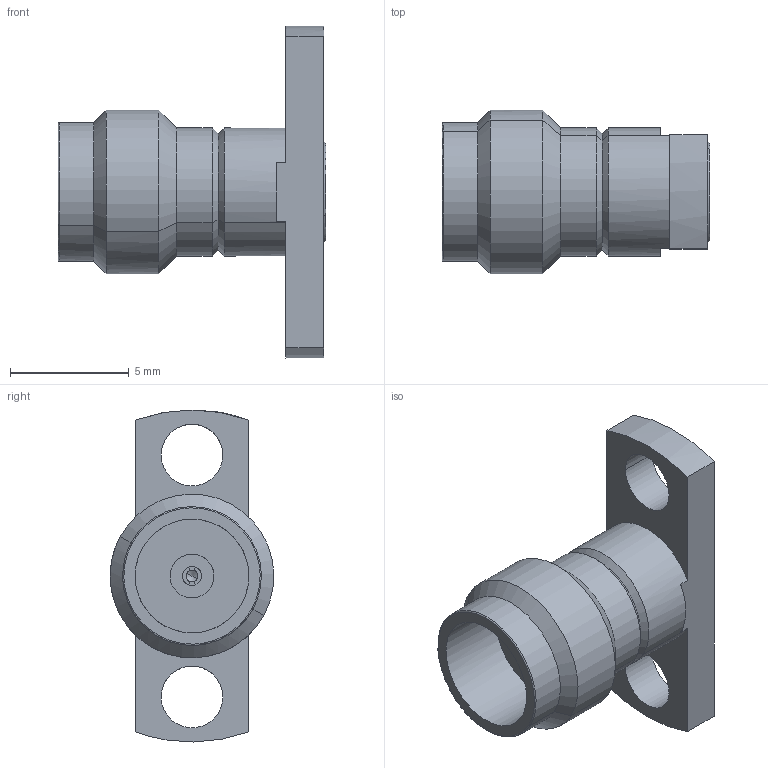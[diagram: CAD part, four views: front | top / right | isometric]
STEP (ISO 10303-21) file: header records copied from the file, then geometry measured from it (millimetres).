
FILE_DESCRIPTION(('CATIA V5 STEP Exchange'),'2;1');
FILE_NAME('C:\Documents and Settings\Administrator\桌面\98-02-9E5-003(REV.A).stp','2013-05-13T06:36:58+00:00',('none'),('none'),'CATIA Version 5 Release 17 (IN-10)','CATIA V5 STEP AP203','none');
FILE_SCHEMA(('CONFIG_CONTROL_DESIGN'));
Length unit declared in the file: millimetre
Products named in the file (1): 98-02-9E5-003(REV.A)
Bounding box: 11.3 x 6.9 x 14 mm (x, y, z)
Volume: 292.9 mm3; surface area: 479.9 mm2
Topology: 1 solids, 1 shells, 72 faces, 178 edges, 110 vertices
Faces by surface type: cylinder 28, plane 28, cone 14, torus 2
Entity records: 2463 total; most frequent: CARTESIAN_POINT 868, ORIENTED_EDGE 348, DIRECTION 252, EDGE_CURVE 174, VERTEX_POINT 110, AXIS2_PLACEMENT_3D 104, VECTOR 88, LINE 88
